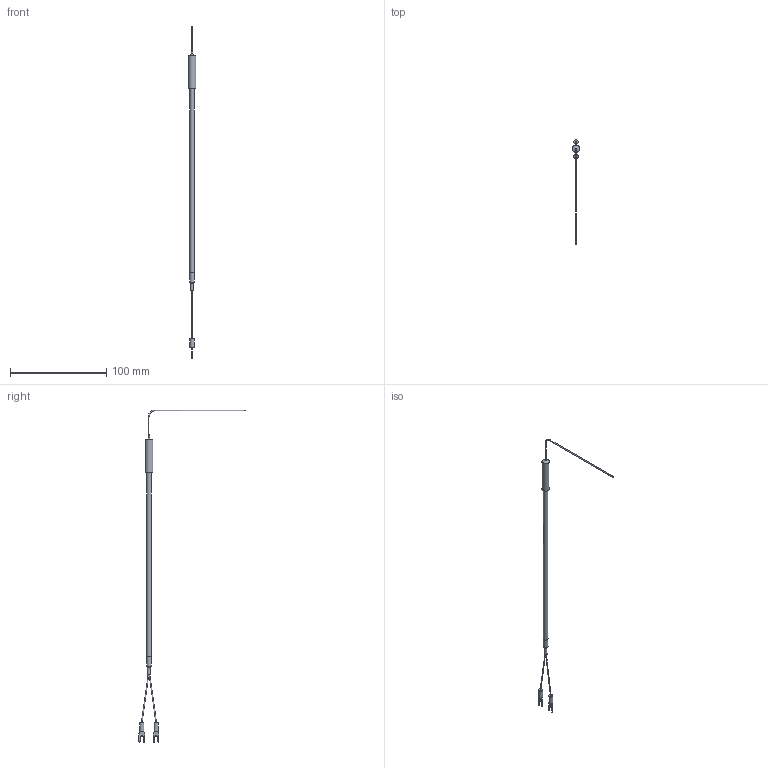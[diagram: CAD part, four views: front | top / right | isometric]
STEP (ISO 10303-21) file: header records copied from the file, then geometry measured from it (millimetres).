
FILE_DESCRIPTION (( 'STEP AP203' ), '1' );
FILE_NAME ('YIT111S-3(0).STEP', '2025-02-18T05:58:38', ( '' ), ( '' ), 'SwSTEP 2.0', 'SolidWorks 2021', '' );
FILE_SCHEMA (( 'CONFIG_CONTROL_DESIGN' ));
Length unit declared in the file: millimetre
Products named in the file (1): YIT111S-3(0)
Bounding box: 8 x 110.42 x 345.5 mm (x, y, z)
Volume: 6000.8 mm3; surface area: 5282.3 mm2
Topology: 1 solids, 1 shells, 69 faces, 168 edges, 108 vertices
Faces by surface type: plane 34, cylinder 22, bspline 8, torus 2, cone 2, sphere 1
Full cylindrical faces by diameter (mm): 1 x2, 3.16 x1, 4.5 x2, 4.8 x1, 5 x1, 8 x1
Entity records: 2132 total; most frequent: CARTESIAN_POINT 535, DIRECTION 308, ORIENTED_EDGE 294, EDGE_CURVE 147, AXIS2_PLACEMENT_3D 111, VERTEX_POINT 103, EDGE_LOOP 92, LINE 86
